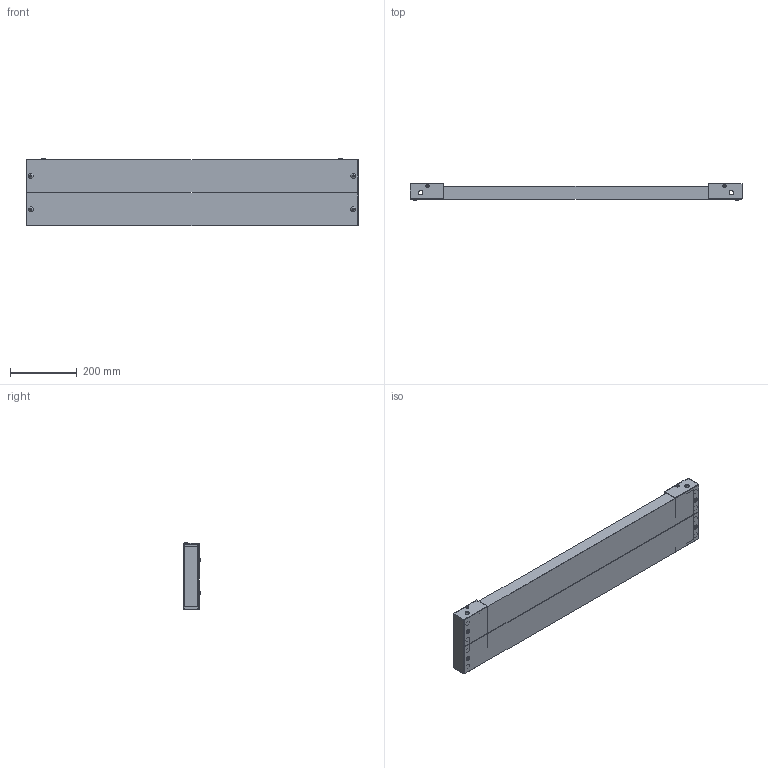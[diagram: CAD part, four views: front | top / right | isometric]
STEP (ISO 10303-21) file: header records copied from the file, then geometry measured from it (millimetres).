
FILE_DESCRIPTION((''),'2;1');
FILE_NAME('ZAK0A2_ASM','2025-02-27T16:09:30',('dougp'),('SAGINAW CONTROL & ENGINEERING'),'CREO PARAMETRIC BY PTC INC, 2021284','CREO PARAMETRIC BY PTC INC, 2021284','');
FILE_SCHEMA(('AUTOMOTIVE_DESIGN { 1 0 10303 214 1 1 1 1 }'));
Length unit declared in the file: inch
Products named in the file (20): DGM600-4-SOLID2; DGM600-1-SOLID2; VBC616-1-SOLID1; VBC616-2-SOLID1; DGM600-1-SOLID1; DGM600-3-SOLID2; DGM600-4-SOLID1; ANGOLARE_H_200-1-SOLID1; ZAK0A1-2-SOLID1; DGM600-2-SOLID2; VBC616-4-SOLID1; VBC616-3-SOLID1; VITE_TRILOBATA_M5-1-SOLID1; VITE_TRILOBATA_M5-2-SOLID1; ZAK0A1-1-SOLID1; DGM600-3-SOLID1; DGM600-2-SOLID1; ANGOLARE_H_200-2-SOLID1; ZAK0A2_1_ASM; ZAK0A2_ASM
Assembly tree (19 placements, depth 3):
  ZAK0A2_ASM
    ZAK0A2_1_ASM
      DGM600-4-SOLID2
      DGM600-1-SOLID2
      VBC616-1-SOLID1
      VBC616-2-SOLID1
      DGM600-1-SOLID1
      DGM600-3-SOLID2
      DGM600-4-SOLID1
      ANGOLARE_H_200-1-SOLID1
      ZAK0A1-2-SOLID1
      DGM600-2-SOLID2
      VBC616-4-SOLID1
      VBC616-3-SOLID1
      VITE_TRILOBATA_M5-1-SOLID1
      VITE_TRILOBATA_M5-2-SOLID1
      ZAK0A1-1-SOLID1
      DGM600-3-SOLID1
      DGM600-2-SOLID1
      ANGOLARE_H_200-2-SOLID1
Bounding box: 998 x 50.7 x 203.74 mm (x, y, z)
Volume: 834917.3 mm3; surface area: 851013.5 mm2
Topology: 18 solids, 18 shells, 762 faces, 2034 edges, 1328 vertices
Faces by surface type: plane 440, cylinder 288, cone 20, torus 8, sphere 6
Entity records: 26195 total; most frequent: CARTESIAN_POINT 4777, DIRECTION 4126, ORIENTED_EDGE 4068, EDGE_CURVE 2034, VECTOR 1420, LINE 1420, AXIS2_PLACEMENT_3D 1353, VERTEX_POINT 1328
